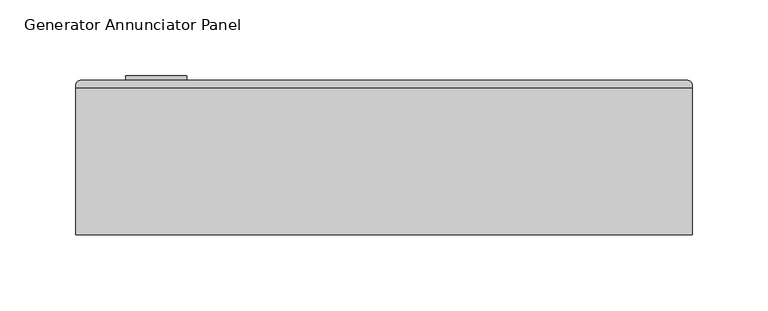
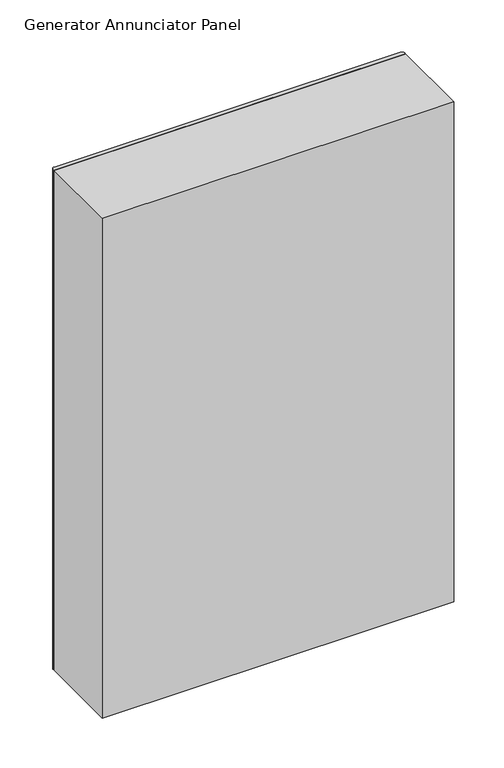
"""IFC4 building model written with IfcOpenShell, lengths in millimetres: proxy geometry, Generator_Annunciator_Panel_Wallmount_with_3inch_Strut_BIM_Model : Generator Annunciator Panel."""

import ifcopenshell
import ifcopenshell.guid

model = None  # the IFC model being written
_history = None  # IfcOwnerHistory: only IFC2X3 demands one
_inside = {}  # id of a spatial element -> (the spatial element, [elements in it])
_under = {}  # id of a project, library or spatial element -> (it, [spatial elements below it])
_declared = {}  # id of a project -> (the project, [libraries it declares])
_typed = {}  # id of a type object -> (the type object, [elements of that type])
_made_of = {}  # id of a material, layer set ... -> (it, [elements and type objects made of it])


def new_model(schema):
    """Start an empty IFC model of exactly this schema.

    Asked for "IFC4X3", IfcOpenShell would pick the latest addendum, in which some entities
    have other attributes; the version numbers below select the first issue.
    IFC2X3 requires an IfcOwnerHistory on every rooted entity: one is made here for all.
    """
    global model, _history
    if schema == "IFC4X3":
        model = ifcopenshell.file(schema_version=(4, 3, 0, 0))
    else:
        model = ifcopenshell.file(schema=schema)
    _inside.clear()
    _under.clear()
    _declared.clear()
    _typed.clear()
    _made_of.clear()
    _history = None
    if model.schema == "IFC2X3":
        org = make("IfcOrganization", Name="unknown")
        user = make(
            "IfcPersonAndOrganization",
            ThePerson=make("IfcPerson", FamilyName="unknown"),
            TheOrganization=org,
        )
        app = make(
            "IfcApplication",
            ApplicationDeveloper=org,
            Version="unknown",
            ApplicationFullName="unknown",
            ApplicationIdentifier="unknown",
        )
        _history = make(
            "IfcOwnerHistory",
            OwningUser=user,
            OwningApplication=app,
            ChangeAction="ADDED",
            CreationDate=0,
        )
    return model


def make(cls, **values):
    """One entity of the class cls with the attributes given. An attribute that is None is left unset."""
    return model.create_entity(
        cls, **{name: value for name, value in values.items() if value is not None}
    )


def rooted(cls, **values):
    """An entity with a GlobalId (a new one), such as an element, a storey or a relation."""
    return make(cls, GlobalId=ifcopenshell.guid.new(), OwnerHistory=_history, **values)


def si_unit(unit_type, name, prefix=None):
    """IfcSIUnit, for example si_unit("LENGTHUNIT", "METRE", prefix="MILLI")."""
    return make("IfcSIUnit", UnitType=unit_type, Prefix=prefix, Name=name)


def assignment(units):
    """IfcUnitAssignment: the units of a project."""
    return None if units is None else make("IfcUnitAssignment", Units=units)


def point(xyz):
    """IfcCartesianPoint."""
    return None if xyz is None else make("IfcCartesianPoint", Coordinates=xyz)


def direction(xyz):
    """IfcDirection."""
    return None if xyz is None else make("IfcDirection", DirectionRatios=xyz)


def frame(location, z_axis=None, x_axis=None):
    """IfcAxis2Placement3D, a coordinate frame: its origin and axes. An axis left out is left unset."""
    return make(
        "IfcAxis2Placement3D",
        Location=point(location),
        Axis=direction(z_axis),
        RefDirection=direction(x_axis),
    )


def frame_2d(location, x_axis=None):
    """IfcAxis2Placement2D, a coordinate frame in the plane: its origin and x axis."""
    return make(
        "IfcAxis2Placement2D", Location=point(location), RefDirection=direction(x_axis)
    )


def origin():
    """The frame at (0, 0, 0) with its axes left unset."""
    return frame((0.0, 0.0, 0.0))


def place(relative_to, where):
    """IfcLocalPlacement: puts the frame where relative to a parent placement (None: the world)."""
    return make(
        "IfcLocalPlacement", PlacementRelTo=relative_to, RelativePlacement=where
    )


def context(
    kind, dimensions, precision=None, world=None, true_north=None, identifier=None
):
    """IfcGeometricRepresentationContext, for example the 3D "Model" context."""
    return make(
        "IfcGeometricRepresentationContext",
        ContextIdentifier=identifier,
        ContextType=kind,
        CoordinateSpaceDimension=dimensions,
        Precision=precision,
        WorldCoordinateSystem=world,
        TrueNorth=true_north,
    )


def project(units=None, contexts=None):
    """IfcProject with its units and contexts."""
    return rooted(
        "IfcProject",
        Name="project",
        RepresentationContexts=contexts,
        UnitsInContext=assignment(units),
    )


def spatial(cls, under=None, at=None, **own):
    """A site, building, storey or space (cls), placed at a placement, below another one or the project."""
    s = rooted(cls, ObjectPlacement=at, **own)
    if under is not None:
        _under.setdefault(under.id(), (under, []))[1].append(s)
    return s


def polyline(points):
    """IfcPolyline through the points."""
    return make("IfcPolyline", Points=[point(p) for p in points])


def circle_curve(where, radius):
    """IfcCircle in the frame where."""
    return make("IfcCircle", Position=where, Radius=radius)


def trimmed(basis, trim1, trim2, sense, master):
    """IfcTrimmedCurve: the piece of a basis curve between two trims."""
    return make(
        "IfcTrimmedCurve",
        BasisCurve=basis,
        Trim1=trim1,
        Trim2=trim2,
        SenseAgreement=sense,
        MasterRepresentation=master,
    )


def segment(curve, same_sense, transition):
    """IfcCompositeCurveSegment."""
    return make(
        "IfcCompositeCurveSegment",
        Transition=transition,
        SameSense=same_sense,
        ParentCurve=curve,
    )


def composite_curve(segments, self_intersect=None):
    """IfcCompositeCurve: segments joined end to end."""
    return make("IfcCompositeCurve", Segments=segments, SelfIntersect=self_intersect)


def outline(outer, holes=None, kind="AREA"):
    """IfcArbitraryClosedProfileDef: a profile drawn as a closed curve; with holes, ...WithVoids."""
    if holes is None:
        return make("IfcArbitraryClosedProfileDef", ProfileType=kind, OuterCurve=outer)
    return make(
        "IfcArbitraryProfileDefWithVoids",
        ProfileType=kind,
        OuterCurve=outer,
        InnerCurves=holes,
    )


def extrude(swept, where, along, depth):
    """IfcExtrudedAreaSolid: the profile swept, set in the frame where, extruded along a direction by depth."""
    return make(
        "IfcExtrudedAreaSolid",
        SweptArea=swept,
        Position=where,
        ExtrudedDirection=direction(along),
        Depth=depth,
    )


def shape(context_of_items, identifier, shape_type, items):
    """IfcShapeRepresentation: the items that make up one representation, for example the "Body"."""
    return make(
        "IfcShapeRepresentation",
        ContextOfItems=context_of_items,
        RepresentationIdentifier=identifier,
        RepresentationType=shape_type,
        Items=items,
    )


def source(mapping_origin, context_of_items, identifier, shape_type, items):
    """IfcRepresentationMap: a shape defined once, which mapped items show again and again."""
    return make(
        "IfcRepresentationMap",
        MappingOrigin=mapping_origin,
        MappedRepresentation=shape(context_of_items, identifier, shape_type, items),
    )


def transform(
    local_origin,
    x_axis=None,
    y_axis=None,
    z_axis=None,
    scale=None,
    scale2=None,
    scale3=None,
    uniform=True,
):
    """IfcCartesianTransformationOperator3D, or its non-uniform kind. x_axis, y_axis, z_axis: its Axis1, 2, 3."""
    if uniform:
        return make(
            "IfcCartesianTransformationOperator3D",
            Axis1=direction(x_axis),
            Axis2=direction(y_axis),
            LocalOrigin=point(local_origin),
            Scale=scale,
            Axis3=direction(z_axis),
        )
    return make(
        "IfcCartesianTransformationOperator3DnonUniform",
        Axis1=direction(x_axis),
        Axis2=direction(y_axis),
        LocalOrigin=point(local_origin),
        Scale=scale,
        Axis3=direction(z_axis),
        Scale2=scale2,
        Scale3=scale3,
    )


def mapped(mapping_source, mapping_target):
    """IfcMappedItem: shows the shape of a source again, moved by a transform."""
    return make(
        "IfcMappedItem", MappingSource=mapping_source, MappingTarget=mapping_target
    )


def made_of(thing, what):
    """Note that an element or type object is made of a material, layer set ...; save() writes the relation."""
    if what is not None:
        _made_of.setdefault(what.id(), (what, []))[1].append(thing)
    return thing


def element(
    cls,
    number,
    at=None,
    inside=None,
    cuts=None,
    type_object=None,
    material=None,
    context=None,
    identifier="Body",
    shape_type=None,
    held_by="IfcProductDefinitionShape",
    body=None,
    shapes=None,
    **own,
):
    """One element of the class cls, such as IfcWall. Its Tag is "e" and its number.

    at: its placement. inside: the storey or other place that contains it. cuts: it is an
    opening in that element (IfcRelVoidsElement). A single representation is given by context,
    identifier, shape_type and body (its items); several are given by shapes. held_by: the class
    of the entity that holds the representations. save() writes the other relations.
    """
    e = rooted(cls, Tag="e%d" % number, ObjectPlacement=at, **own)
    if body is not None:
        shapes = [shape(context, identifier, shape_type, body)]
    if shapes is not None:
        e.Representation = make(held_by, Representations=shapes)
    if inside is not None:
        _inside.setdefault(inside.id(), (inside, []))[1].append(e)
    if cuts is not None:
        rooted(
            "IfcRelVoidsElement", RelatingBuildingElement=cuts, RelatedOpeningElement=e
        )
    if type_object is not None:
        _typed.setdefault(type_object.id(), (type_object, []))[1].append(e)
    return made_of(e, material)


def aggregate(whole, parts):
    """IfcRelAggregates: a whole, such as a stair, and the parts it consists of."""
    return rooted("IfcRelAggregates", RelatingObject=whole, RelatedObjects=parts)


def save(model, path):
    """Write the relations noted so far, then the file.

    IfcRelAggregates (storeys below a building ...), IfcRelContainedInSpatialStructure (elements
    in a storey), IfcRelDefinesByType, IfcRelAssociatesMaterial and IfcRelDeclares: one each for
    every whole, place, type object, material and project.
    """
    for whole, parts in _under.values():
        aggregate(whole, parts)
    for where, things in _inside.values():
        rooted(
            "IfcRelContainedInSpatialStructure",
            RelatedElements=things,
            RelatingStructure=where,
        )
    for kind, things in _typed.values():
        rooted("IfcRelDefinesByType", RelatedObjects=things, RelatingType=kind)
    for what, things in _made_of.values():
        rooted("IfcRelAssociatesMaterial", RelatedObjects=things, RelatingMaterial=what)
    for by, libraries in _declared.values():
        rooted("IfcRelDeclares", RelatingContext=by, RelatedDefinitions=libraries)
    model.write(path)


def generator_annunciator_panel_a3cc0efe(model_context):
    return source(origin(), model_context, "Body", "SweptSolid", [
        extrude(outline(composite_curve([segment(trimmed(circle_curve(frame_2d((841.0, -25.0)), 20.0), [point((841.0, -45.0))], [point((841.0, -5.0))], False, "CARTESIAN"), True, "CONTINUOUS"), segment(trimmed(circle_curve(frame_2d((841.0, -25.0)), 20.0), [point((841.0, -5.0))], [point((841.0, -45.0))], False, "CARTESIAN"), True, "CONTINUOUS")], self_intersect=False), holes=[polyline([(848.2746144, -28.1017201), (848.2746144, -21.9806797), (833.2746144, -21.9806797), (833.2746144, -28.1017201), (848.2746144, -28.1017201)])]), frame((0.0, 395.1106771, 0.0), z_axis=(0.0, 1.0, 0.0), x_axis=(0.0, 0.0, 1.0)), (0.0, 0.0, 1.0), 3.0),
        extrude(outline(composite_curve([segment(trimmed(circle_curve(frame_2d((325.0, 392.1106771)), 3.0), [point((325.0, 395.1106771))], [point((328.0, 392.1106771))], False, "CARTESIAN"), True, "CONTINUOUS"), segment(polyline([(328.0, 392.1106771), (328.0, 390.2289622), (-78.0, 390.2289622), (-78.0, 392.1106771)]), True, "CONTINUOUS"), segment(trimmed(circle_curve(frame_2d((-75.0, 392.1106771)), 3.0), [point((-78.0, 392.1106771))], [point((-75.0, 395.1106771))], False, "CARTESIAN"), True, "CONTINUOUS"), segment(polyline([(-75.0, 395.1106771), (325.0, 395.1106771)]), True, "CONTINUOUS")], self_intersect=False)), frame((0.0, 0.0, 460.0), z_axis=(0.0, 0.0, 1.0), x_axis=(1.0, 0.0, 0.0)), (0.0, 0.0, 1.0), 610.0),
        extrude(outline(polyline([(328.0, 390.2289622), (328.0, 293.4441202), (-78.0, 293.4441202), (-78.0, 390.2289622), (328.0, 390.2289622)])), frame((0.0, 0.0, 460.0), z_axis=(0.0, 0.0, 1.0), x_axis=(1.0, 0.0, 0.0)), (0.0, 0.0, 1.0), 610.0),
    ])


if __name__ == "__main__":
    model = new_model("IFC4")
    model_context = context("Model", 3, world=origin())
    ifc_project = project(units=[si_unit("LENGTHUNIT", "METRE", prefix="MILLI")], contexts=[model_context])
    site = spatial("IfcSite", under=ifc_project)
    building = spatial("IfcBuilding", under=site)
    placement = place(None, origin())
    generator_annunciator_panel_shape = generator_annunciator_panel_a3cc0efe(model_context)
    element("IfcBuildingElementProxy", 1, Name="Generator_Annunciator_Panel_Wallmount_with_3inch_Strut_BIM_Model : Generator Annunciator Panel", ObjectType="Generator_Annunciator_Panel_Wallmount_with_3inch_Strut_BIM_Model : Generator Annunciator Panel", at=placement, inside=building, context=model_context, shape_type="MappedRepresentation", body=[
        mapped(generator_annunciator_panel_shape, transform((0.0, 0.0, 0.0), x_axis=(1.0, 0.0, 0.0), y_axis=(0.0, 1.0, 0.0), z_axis=(0.0, 0.0, 1.0))),
    ])
    save(model, "model.ifc")
